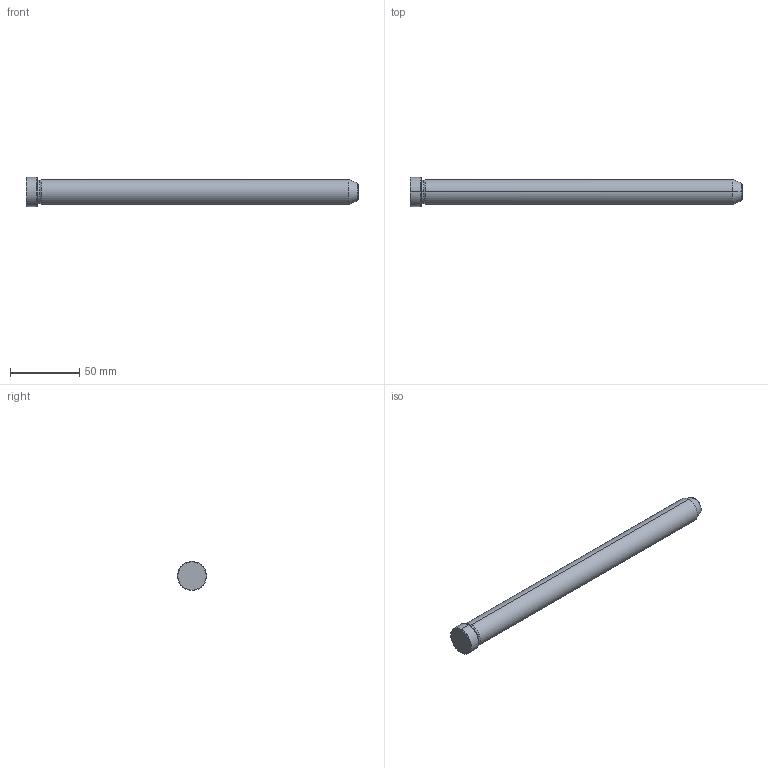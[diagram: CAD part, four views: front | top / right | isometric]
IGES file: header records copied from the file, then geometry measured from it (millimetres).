
Start section: START RECORD GO HERE.
Global section: file name: 549-18X240.igs; native system: DASSAULT SYSTEMES CATIA V5 R20 - www.3ds.com; preprocessor: CATIA Version 5 Release 20 ; author: Utente; organization: NB04-ASUS; date: 20211211.104639; units: millimetre
Bounding box: 240 x 21 x 21 mm (x, y, z)
Surface area: 14166.3 mm2 (no closed solid volume)
Topology: 0 solids, 0 shells, 19 faces, 112 edges, 112 vertices
Faces by surface type: revolution 16, plane 3
